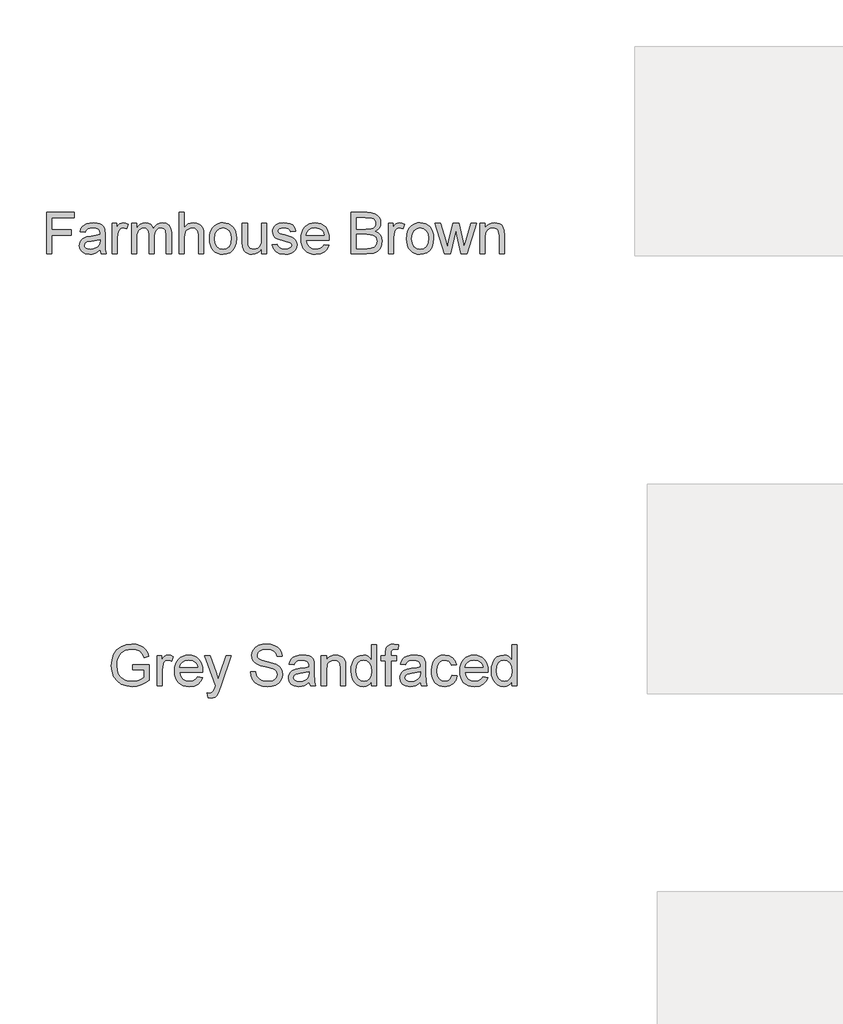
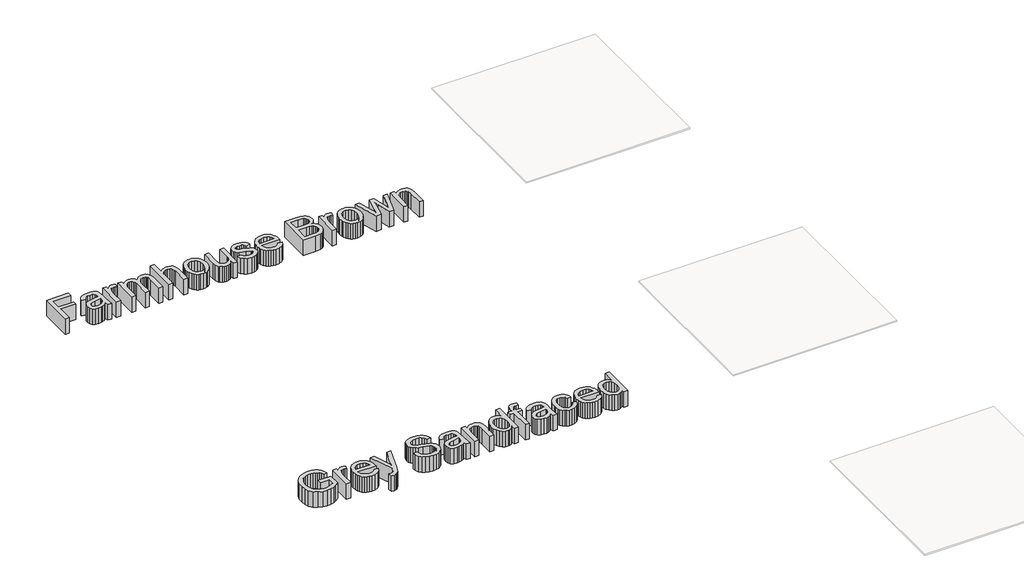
# One storey, part 2 of 6: 2 proxies.
"""IFC4 building model written with IfcOpenShell, lengths in millimetres."""

from ifc_helpers import new_model, si_unit, frame, origin, place, context, project, spatial, polyline, outline, extrude, element, save

model = new_model("IFC4")

# Units and contexts
model_context = context("Model", 3, world=origin())
ifc_project = project(units=[si_unit("LENGTHUNIT", "METRE", prefix="MILLI")], contexts=[model_context])

# Site, building, storey
site = spatial("IfcSite", under=ifc_project)
building = spatial("IfcBuilding", under=site)
storey = spatial("IfcBuildingStorey", under=building, Name="Marley Clay Plain Tile", Elevation=3000.0)

# Proxies
placement = place(None, origin())
element("IfcBuildingElementProxy", 1, Name="600mm Arial", ObjectType="600mm Arial", at=placement, inside=storey, context=model_context, shape_type="SweptSolid", body=[
    extrude(outline(polyline([(-14881.3791239, -8134.2124994), (-14881.3791239, -7838.827884), (-14682.9175855, -7838.827884), (-14682.9175855, -7875.7509609), (-14844.456047, -7875.7509609), (-14844.456047, -7963.4432686), (-14705.9945086, -7963.4432686), (-14705.9945086, -8000.3663456), (-14844.456047, -8000.3663456), (-14844.456047, -8134.2124994), (-14881.3791239, -8134.2124994)])), frame((0.0, 0.0, 3000.0), z_axis=(0.0, 0.0, 1.0), x_axis=(1.0, 0.0, 0.0)), (0.0, 0.0, 1.0), 150.0),
    extrude(outline(polyline([(-14498.3022009, -8106.5201917), (-14515.9434268, -8121.6463936), (-14534.1074893, -8131.5442302), (-14553.2090518, -8137.0069706), (-14573.6627778, -8138.827884), (-14604.519148, -8134.4468744), (-14627.2805663, -8121.3038456), (-14641.316023, -8101.3459129), (-14645.9945086, -8076.5201917), (-14644.2276816, -8061.2137013), (-14638.9272009, -8047.3134609), (-14630.7511191, -8035.4144225), (-14620.3574893, -8026.1115379), (-14594.5041239, -8013.9961532), (-14562.5570086, -8008.4432686), (-14524.8046047, -8002.6019225), (-14498.518547, -7995.7509609), (-14498.3022009, -7987.5298071), (-14500.8442682, -7971.0514417), (-14508.4704701, -7960.2701917), (-14525.5257586, -7952.265384), (-14549.2877778, -7949.5971148), (-14571.2829701, -7951.3729561), (-14586.643547, -7956.7004802), (-14597.1183066, -7966.5532446), (-14604.456047, -7981.9048071), (-14641.3791239, -7977.2894225), (-14634.9698691, -7957.0971148), (-14625.4055663, -7941.2317302), (-14611.7937874, -7929.0983167), (-14593.2421047, -7920.1019225), (-14570.5528018, -7914.531009), (-14544.5281624, -7912.6740379), (-14519.5672249, -7914.3146629), (-14499.7805663, -7919.2365379), (-14484.8616961, -7926.6373792), (-14474.5041239, -7935.7149032), (-14467.6351336, -7946.93786), (-14463.1820086, -7960.7749994), (-14461.3791239, -7993.0826917), (-14461.3791239, -8039.0201917), (-14459.5041239, -8103.1668263), (-14452.1483547, -8134.2124994), (-14489.0714316, -8134.2124994), (-14498.3022009, -8106.5201917)]), holes=[polyline([(-14498.3022009, -8032.6740379), (-14557.8695086, -8043.9961532), (-14589.6363355, -8049.9817302), (-14604.0233547, -8059.7173071), (-14609.0714316, -8073.9240379), (-14606.3220326, -8084.9036052), (-14598.0738355, -8093.8999994), (-14584.5071288, -8099.9036052), (-14565.8022009, -8101.9048071), (-14545.9704701, -8099.6962734), (-14528.4464316, -8093.0706725), (-14514.2397009, -8083.3080523), (-14504.3598932, -8071.6884609), (-14499.9788836, -8059.7173071), (-14498.518547, -8043.1307686), (-14498.3022009, -8032.6740379)])]), frame((0.0, 0.0, 3000.0), z_axis=(0.0, 0.0, 1.0), x_axis=(1.0, 0.0, 0.0)), (0.0, 0.0, 1.0), 150.0),
    extrude(outline(polyline([(-14410.6098932, -8134.2124994), (-14410.6098932, -7917.2894225), (-14378.3022009, -7917.2894225), (-14378.3022009, -7949.3807686), (-14366.3671047, -7930.7749994), (-14355.3695086, -7919.8134609), (-14344.3358547, -7914.4588936), (-14332.2925855, -7912.6740379), (-14313.9031624, -7915.5225956), (-14295.2252778, -7924.0682686), (-14307.5570086, -7957.1692302), (-14320.5377778, -7951.4901436), (-14333.518547, -7949.5971148), (-14344.5431864, -7951.4180282), (-14354.3959509, -7956.8807686), (-14362.3556864, -7965.5706725), (-14367.7012393, -7977.0730763), (-14372.190422, -7997.6980763), (-14373.6868163, -8020.1980763), (-14373.6868163, -8134.2124994), (-14410.6098932, -8134.2124994)])), frame((0.0, 0.0, 3000.0), z_axis=(0.0, 0.0, 1.0), x_axis=(1.0, 0.0, 0.0)), (0.0, 0.0, 1.0), 150.0),
    extrude(outline(polyline([(-14272.1483547, -8134.2124994), (-14272.1483547, -7917.2894225), (-14235.2252778, -7917.2894225), (-14235.2252778, -7952.9865379), (-14224.1195086, -7936.5893023), (-14209.8406624, -7923.7437494), (-14192.8755182, -7915.4414657), (-14173.7108547, -7912.6740379), (-14153.1759989, -7915.4955523), (-14136.7156624, -7923.9600956), (-14124.4199893, -7937.5087734), (-14116.3791239, -7955.5826917), (-14102.9205903, -7936.8101557), (-14087.5690278, -7923.4012013), (-14070.3244364, -7915.3558287), (-14051.1868163, -7912.6740379), (-14023.4314076, -7917.1361773), (-14002.9055663, -7930.5225956), (-13990.222273, -7953.1938696), (-13985.9945086, -7985.5105763), (-13985.9945086, -8134.2124994), (-14022.9175855, -8134.2124994), (-14022.9175855, -8001.3759609), (-14026.3430663, -7970.546634), (-14031.1567682, -7962.0460331), (-14038.7469124, -7955.3663456), (-14048.5095326, -7951.0394225), (-14059.8406624, -7949.5971148), (-14079.8436672, -7953.2930282), (-14096.1507586, -7964.3807686), (-14106.9951095, -7983.6175475), (-14110.6098932, -8011.7605763), (-14110.6098932, -8134.2124994), (-14147.5329701, -8134.2124994), (-14147.5329701, -7997.265384), (-14149.6693884, -7976.3879802), (-14156.0786432, -7961.4961532), (-14167.3556864, -7952.5718744), (-14184.0954701, -7949.5971148), (-14198.3202297, -7951.5802879), (-14211.4272009, -7957.5298071), (-14222.2445086, -7967.3014417), (-14229.6002778, -7980.7509609), (-14233.8190278, -7999.4108167), (-14235.2252778, -8024.8134609), (-14235.2252778, -8134.2124994), (-14272.1483547, -8134.2124994)])), frame((0.0, 0.0, 3000.0), z_axis=(0.0, 0.0, 1.0), x_axis=(1.0, 0.0, 0.0)), (0.0, 0.0, 1.0), 150.0),
    extrude(outline(polyline([(-13930.6098932, -8134.2124994), (-13930.6098932, -7838.827884), (-13893.6868163, -7838.827884), (-13893.6868163, -7947.4336532), (-13880.1246167, -7932.2263215), (-13864.8947489, -7921.3639417), (-13847.9972129, -7914.8465138), (-13829.4320086, -7912.6740379), (-13807.1303259, -7915.0448311), (-13787.9656624, -7922.1572109), (-13772.8755182, -7933.4522831), (-13762.7973932, -7948.3711532), (-13757.1183066, -7968.8699513), (-13755.2252778, -7996.9048071), (-13755.2252778, -8134.2124994), (-13792.1483547, -8134.2124994), (-13792.1483547, -8000.7269225), (-13795.0870566, -7977.6139417), (-13803.9031624, -7961.7846148), (-13818.1098932, -7952.6439898), (-13837.2204701, -7949.5971148), (-13852.8244364, -7951.6524032), (-13867.4728739, -7957.8182686), (-13879.6062874, -7967.499759), (-13887.6651816, -7980.1019225), (-13892.1814076, -7996.8507206), (-13893.6868163, -8018.9721148), (-13893.6868163, -8134.2124994), (-13930.6098932, -8134.2124994)])), frame((0.0, 0.0, 3000.0), z_axis=(0.0, 0.0, 1.0), x_axis=(1.0, 0.0, 0.0)), (0.0, 0.0, 1.0), 150.0),
    extrude(outline(polyline([(-13713.6868163, -8025.7509609), (-13711.6901215, -7997.6575114), (-13705.7000374, -7973.4492782), (-13695.7165638, -7953.1262614), (-13681.7397009, -7936.6884609), (-13667.6681864, -7926.1821508), (-13652.1363355, -7918.6776436), (-13635.144148, -7914.1749393), (-13616.6916239, -7912.6740379), (-13596.3212814, -7914.5017121), (-13577.9025614, -7919.984735), (-13561.4354641, -7929.1231064), (-13546.9199893, -7941.9168263), (-13535.0727838, -7957.9332025), (-13526.6104941, -7976.7395427), (-13521.5331203, -7998.3358468), (-13519.8406624, -8022.7221148), (-13522.8334509, -8060.0237975), (-13531.8118163, -8088.4192302), (-13546.5143403, -8109.6842542), (-13566.6796047, -8125.5947109), (-13590.6309268, -8135.5195907), (-13616.6916239, -8138.827884), (-13637.3594425, -8137.0069706), (-13655.9494364, -8131.5442302), (-13672.4616059, -8122.4396629), (-13686.8959509, -8109.6932686), (-13698.6169545, -8093.5213936), (-13706.9890999, -8074.140384), (-13712.0123872, -8051.5502398), (-13713.6868163, -8025.7509609)]), holes=[polyline([(-13676.7637393, -8025.6788456), (-13672.4909028, -8059.0953119), (-13659.6723932, -8082.9024032), (-13640.3815278, -8097.1542061), (-13616.6916239, -8101.9048071), (-13593.1098932, -8097.1271629), (-13573.8550855, -8082.7942302), (-13561.0365759, -8058.671634), (-13556.7637393, -8024.5249994), (-13561.0636191, -7992.0820907), (-13573.9632586, -7968.5995186), (-13593.2451095, -7954.3477157), (-13616.6916239, -7949.5971148), (-13640.3815278, -7954.3296869), (-13659.6723932, -7968.5274032), (-13672.4909028, -7992.2804081), (-13676.7637393, -8025.6788456)])]), frame((0.0, 0.0, 3000.0), z_axis=(0.0, 0.0, 1.0), x_axis=(1.0, 0.0, 0.0)), (0.0, 0.0, 1.0), 150.0),
    extrude(outline(polyline([(-13339.8406624, -8134.2124994), (-13339.8406624, -8096.9288456), (-13353.2000374, -8115.2596749), (-13368.7589316, -8128.3531244), (-13386.5173451, -8136.2091941), (-13406.4752778, -8138.827884), (-13424.4590518, -8136.9889417), (-13441.1988355, -8131.4721148), (-13455.2433066, -8123.1788456), (-13465.1411432, -8113.0105763), (-13476.1387393, -8085.8230763), (-13478.3022009, -8051.4961532), (-13478.3022009, -7917.2894225), (-13441.3791239, -7917.2894225), (-13441.3791239, -8034.1163456), (-13439.143547, -8071.7605763), (-13433.7619364, -8084.3176677), (-13424.5401816, -8093.8639417), (-13412.0912634, -8099.8945907), (-13397.0281624, -8101.9048071), (-13381.0996768, -8099.8495186), (-13366.1988355, -8093.6836532), (-13353.9121768, -8083.9751196), (-13345.8262393, -8071.2918263), (-13341.3370566, -8053.9210331), (-13339.8406624, -8030.1499994), (-13339.8406624, -7917.2894225), (-13302.9175855, -7917.2894225), (-13302.9175855, -8134.2124994), (-13339.8406624, -8134.2124994)])), frame((0.0, 0.0, 3000.0), z_axis=(0.0, 0.0, 1.0), x_axis=(1.0, 0.0, 0.0)), (0.0, 0.0, 1.0), 150.0),
    extrude(outline(polyline([(-13265.9945086, -8069.5971148), (-13229.0714316, -8064.9817302), (-13223.2481143, -8080.7749994), (-13211.9800855, -8092.3855763), (-13195.1952297, -8099.5249994), (-13172.8214316, -8101.9048071), (-13150.7180663, -8099.7233167), (-13135.1772009, -8093.1788456), (-13125.9824893, -8083.6956725), (-13122.9175855, -8072.6980763), (-13126.0005182, -8063.2870186), (-13135.2493163, -8056.1115379), (-13173.2541239, -8045.5826917), (-13228.8550855, -8027.5177879), (-13242.9265999, -8018.4402638), (-13253.1219124, -8006.4240379), (-13259.3148211, -7992.2353359), (-13261.3791239, -7976.640384), (-13259.7204701, -7962.3344946), (-13254.7445086, -7949.1283648), (-13246.9019605, -7937.5448311), (-13236.643547, -7928.1067302), (-13213.1699893, -7917.1812494), (-13181.4031624, -7912.6740379), (-13157.3707105, -7914.4859369), (-13136.4752778, -7919.921634), (-13119.6723932, -7928.4492782), (-13107.9175855, -7939.5370186), (-13100.1291239, -7954.0051677), (-13095.2252778, -7972.6740379), (-13132.1483547, -7977.2894225), (-13136.8088114, -7965.6698311), (-13146.0305663, -7956.9168263), (-13159.9037634, -7951.4270427), (-13178.518547, -7949.5971148), (-13199.7204701, -7951.3459129), (-13213.8550855, -7956.5923071), (-13221.8058066, -7964.1644225), (-13224.456047, -7972.890384), (-13220.0570086, -7983.6355763), (-13206.2829701, -7991.7846148), (-13174.4800855, -7999.6451917), (-13120.2853739, -8017.0249994), (-13105.9704701, -8025.3362975), (-13095.1171047, -8036.7124994), (-13088.2751576, -8051.1896629), (-13085.9945086, -8068.8038456), (-13088.6717922, -8087.0129802), (-13096.7036432, -8104.140384), (-13109.7835711, -8118.8429081), (-13127.6050855, -8129.7774032), (-13149.1315278, -8136.5652638), (-13173.3262393, -8138.827884), (-13210.5558066, -8134.4649032), (-13237.7252778, -8121.3759609), (-13255.862297, -8099.7052879), (-13265.9945086, -8069.5971148)])), frame((0.0, 0.0, 3000.0), z_axis=(0.0, 0.0, 1.0), x_axis=(1.0, 0.0, 0.0)), (0.0, 0.0, 1.0), 150.0),
    extrude(outline(polyline([(-12892.581047, -8069.5971148), (-12856.3791239, -8074.2124994), (-12869.4229941, -8101.4901436), (-12890.237297, -8121.8807686), (-12918.3532826, -8134.5911052), (-12953.3022009, -8138.827884), (-12976.2123571, -8137.0002097), (-12996.6255182, -8131.5171869), (-13014.541684, -8122.3788155), (-13029.9608547, -8109.5850956), (-13042.3601937, -8093.4920968), (-13051.2168643, -8074.4558888), (-13056.5308667, -8052.4764718), (-13058.3022009, -8027.5538456), (-13056.5128379, -8001.7861172), (-13051.1447489, -7979.0742782), (-13042.197934, -7959.4183287), (-13029.6723932, -7942.8182686), (-13014.2937874, -7929.6301677), (-12996.7877778, -7920.2100956), (-12977.1543643, -7914.5580523), (-12955.393547, -7912.6740379), (-12934.3336011, -7914.5535451), (-12915.2883788, -7920.1920667), (-12898.25788, -7929.5896028), (-12883.2421047, -7942.7461532), (-12870.9847429, -7959.3101557), (-12862.2294845, -7978.9300475), (-12856.9763295, -8001.6058287), (-12855.2252778, -8027.3374994), (-12855.4416239, -8037.2894225), (-13021.3791239, -8037.2894225), (-13014.987898, -8064.9276436), (-13000.1411432, -8085.2461532), (-12978.7138595, -8097.7401436), (-12952.581047, -8101.9048071), (-12932.9296047, -8099.9757206), (-12916.3791239, -8094.1884609), (-12902.9296047, -8084.1824513), (-12892.581047, -8069.5971148)]), holes=[polyline([(-13021.3791239, -8000.3663456), (-12892.1483547, -8000.3663456), (-12897.1423451, -7980.859134), (-12906.9320086, -7966.9048071), (-12928.4584509, -7953.9240379), (-12955.5377778, -7949.5971148), (-12980.4265999, -7953.0496388), (-13001.0065278, -7963.4072109), (-13015.3124172, -7979.5520427), (-13021.3791239, -8000.3663456)])]), frame((0.0, 0.0, 3000.0), z_axis=(0.0, 0.0, 1.0), x_axis=(1.0, 0.0, 0.0)), (0.0, 0.0, 1.0), 150.0),
    extrude(outline(polyline([(-12698.3022009, -8134.2124994), (-12698.3022009, -7838.827884), (-12585.5858547, -7838.827884), (-12554.5852538, -7841.00036), (-12530.3815278, -7847.5177879), (-12511.8298451, -7858.5424273), (-12497.7853739, -7874.2365379), (-12488.9422249, -7892.6980763), (-12485.9945086, -7912.0249994), (-12488.4734749, -7929.8104561), (-12495.9103739, -7946.5322109), (-12508.3592922, -7961.1626196), (-12525.8743163, -7972.6740379), (-12504.9518403, -7983.5995186), (-12489.4921047, -8000.2221148), (-12479.9458307, -8021.4420667), (-12476.7637393, -8046.1596148), (-12478.9362153, -8066.7575715), (-12485.4536432, -8085.859134), (-12495.1802057, -8102.1031244), (-12506.9800855, -8114.1283648), (-12521.4302057, -8122.8362975), (-12539.1074893, -8129.1283648), (-12586.4512393, -8134.2124994), (-12698.3022009, -8134.2124994)]), holes=[polyline([(-12661.3791239, -7958.827884), (-12593.9512393, -7958.827884), (-12554.5762393, -7955.6548071), (-12540.7931864, -7950.1830523), (-12530.8863355, -7941.9889417), (-12524.909773, -7931.1986773), (-12522.9175855, -7917.9384609), (-12524.7745566, -7905.0658648), (-12530.3454701, -7893.8519225), (-12539.377922, -7885.0989177), (-12551.6195086, -7879.609134), (-12599.0714316, -7875.7509609), (-12661.3791239, -7875.7509609), (-12661.3791239, -7958.827884)]), polyline([(-12661.3791239, -8097.2894225), (-12585.6579701, -8097.2894225), (-12558.2541239, -8095.8471148), (-12535.0690278, -8087.8062494), (-12519.7084509, -8071.3999994), (-12515.1922249, -8059.8074513), (-12513.6868163, -8046.5201917), (-12515.4536432, -8031.0874994), (-12520.7541239, -8017.8182686), (-12530.0119364, -8007.4426677), (-12543.6507586, -8000.6908648), (-12562.9686672, -7996.9859369), (-12589.2637393, -7995.7509609), (-12661.3791239, -7995.7509609), (-12661.3791239, -8097.2894225)])]), frame((0.0, 0.0, 3000.0), z_axis=(0.0, 0.0, 1.0), x_axis=(1.0, 0.0, 0.0)), (0.0, 0.0, 1.0), 150.0),
    extrude(outline(polyline([(-12430.6098932, -8134.2124994), (-12430.6098932, -7917.2894225), (-12398.3022009, -7917.2894225), (-12398.3022009, -7949.3807686), (-12386.3671047, -7930.7749994), (-12375.3695086, -7919.8134609), (-12364.3358547, -7914.4588936), (-12352.2925855, -7912.6740379), (-12333.9031624, -7915.5225956), (-12315.2252778, -7924.0682686), (-12327.5570086, -7957.1692302), (-12340.5377778, -7951.4901436), (-12353.518547, -7949.5971148), (-12364.5431864, -7951.4180282), (-12374.3959509, -7956.8807686), (-12382.3556864, -7965.5706725), (-12387.7012393, -7977.0730763), (-12392.190422, -7997.6980763), (-12393.6868163, -8020.1980763), (-12393.6868163, -8134.2124994), (-12430.6098932, -8134.2124994)])), frame((0.0, 0.0, 3000.0), z_axis=(0.0, 0.0, 1.0), x_axis=(1.0, 0.0, 0.0)), (0.0, 0.0, 1.0), 150.0),
    extrude(outline(polyline([(-12301.3791239, -8025.7509609), (-12299.3824292, -7997.6575114), (-12293.3923451, -7973.4492782), (-12283.4088715, -7953.1262614), (-12269.4320086, -7936.6884609), (-12255.3604941, -7926.1821508), (-12239.8286432, -7918.6776436), (-12222.8364557, -7914.1749393), (-12204.3839316, -7912.6740379), (-12184.0135891, -7914.5017121), (-12165.5948691, -7919.984735), (-12149.1277718, -7929.1231064), (-12134.612297, -7941.9168263), (-12122.7650915, -7957.9332025), (-12114.3028018, -7976.7395427), (-12109.225428, -7998.3358468), (-12107.5329701, -8022.7221148), (-12110.5257586, -8060.0237975), (-12119.5041239, -8088.4192302), (-12134.206648, -8109.6842542), (-12154.3719124, -8125.5947109), (-12178.3232345, -8135.5195907), (-12204.3839316, -8138.827884), (-12225.0517501, -8137.0069706), (-12243.6417441, -8131.5442302), (-12260.1539136, -8122.4396629), (-12274.5882586, -8109.6932686), (-12286.3092622, -8093.5213936), (-12294.6814076, -8074.140384), (-12299.7046949, -8051.5502398), (-12301.3791239, -8025.7509609)]), holes=[polyline([(-12264.456047, -8025.6788456), (-12260.1832105, -8059.0953119), (-12247.3647009, -8082.9024032), (-12228.0738355, -8097.1542061), (-12204.3839316, -8101.9048071), (-12180.8022009, -8097.1271629), (-12161.5473932, -8082.7942302), (-12148.7288836, -8058.671634), (-12144.456047, -8024.5249994), (-12148.7559268, -7992.0820907), (-12161.6555663, -7968.5995186), (-12180.9374172, -7954.3477157), (-12204.3839316, -7949.5971148), (-12228.0738355, -7954.3296869), (-12247.3647009, -7968.5274032), (-12260.1832105, -7992.2804081), (-12264.456047, -8025.6788456)])]), frame((0.0, 0.0, 3000.0), z_axis=(0.0, 0.0, 1.0), x_axis=(1.0, 0.0, 0.0)), (0.0, 0.0, 1.0), 150.0),
    extrude(outline(polyline([(-12030.0089316, -8134.2124994), (-12095.9945086, -7917.2894225), (-12057.6291239, -7917.2894225), (-12020.2012393, -8043.8519225), (-12009.0233547, -8089.0682686), (-11999.8647009, -8045.5105763), (-11970.081047, -7917.2894225), (-11926.0906624, -7917.2894225), (-11896.4512393, -8045.1499994), (-11888.3022009, -8084.5971148), (-11876.6195086, -8042.9865379), (-11839.1195086, -7917.2894225), (-11800.6098932, -7917.2894225), (-11867.1002778, -8134.2124994), (-11911.7397009, -8134.2124994), (-11940.081047, -8007.0009609), (-11948.3022009, -7967.3374994), (-11984.8647009, -8134.2124994), (-12030.0089316, -8134.2124994)])), frame((0.0, 0.0, 3000.0), z_axis=(0.0, 0.0, 1.0), x_axis=(1.0, 0.0, 0.0)), (0.0, 0.0, 1.0), 150.0),
    extrude(outline(polyline([(-11775.2252778, -8134.2124994), (-11775.2252778, -7917.2894225), (-11738.3022009, -7917.2894225), (-11738.3022009, -7947.577884), (-11725.4746768, -7932.3074513), (-11710.0690278, -7921.3999994), (-11692.0852538, -7914.8555282), (-11671.5233547, -7912.6740379), (-11653.3232345, -7914.4318504), (-11636.6555663, -7919.7052879), (-11622.7553259, -7927.8362975), (-11612.8574893, -7938.1668263), (-11601.7877778, -7965.3182686), (-11599.8406624, -8001.015384), (-11599.8406624, -8134.2124994), (-11636.7637393, -8134.2124994), (-11636.7637393, -8005.9913456), (-11641.018547, -7973.3230763), (-11646.9049653, -7963.5965138), (-11656.0546047, -7956.0514417), (-11667.7823691, -7951.2106965), (-11681.4031624, -7949.5971148), (-11703.0287634, -7953.2209129), (-11721.4632586, -7964.0923071), (-11728.8302958, -7972.9670066), (-11734.0924653, -7985.0959129), (-11738.3022009, -8019.1163456), (-11738.3022009, -8134.2124994), (-11775.2252778, -8134.2124994)])), frame((0.0, 0.0, 3000.0), z_axis=(0.0, 0.0, 1.0), x_axis=(1.0, 0.0, 0.0)), (0.0, 0.0, 1.0), 150.0),
])
element("IfcBuildingElementProxy", 2, Name="600mm Arial", ObjectType="600mm Arial", at=placement, inside=storey, context=model_context, shape_type="SweptSolid", body=[
    extrude(outline(polyline([(-14264.6152289, -11114.7139785), (-14264.6152289, -11077.7909016), (-14144.6152289, -11077.7909016), (-14144.6152289, -11188.1995554), (-14173.7768876, -11208.4820073), (-14203.8580174, -11223.0312862), (-14234.786503, -11231.7933054), (-14266.4902289, -11234.7139785), (-14307.911503, -11230.0715506), (-14345.348402, -11216.1442669), (-14376.4481616, -11193.4189064), (-14398.8580174, -11162.3822477), (-14412.4066953, -11125.1526804), (-14416.9229213, -11083.8485939), (-14412.4247241, -11042.2470314), (-14398.9301328, -11003.5481131), (-14376.9980414, -10971.0871756), (-14347.1873443, -10948.1995554), (-14310.8772482, -10934.6238343), (-14269.4469597, -10930.0985939), (-14239.0322963, -10932.721791), (-14211.6825366, -10940.5913823), (-14188.6506857, -10953.1394593), (-14171.1897482, -10969.7981131), (-14158.2720799, -10991.3696275), (-14148.8700366, -11018.6562862), (-14182.9084982, -11028.2476323), (-14190.5076568, -11008.7854929), (-14199.7474405, -10994.1009977), (-14211.9709982, -10983.0312862), (-14228.5214789, -10974.4134977), (-14248.2540511, -10968.8696275), (-14270.0238828, -10967.0216708), (-14295.5076568, -10969.0138583), (-14317.2955174, -10974.9904208), (-14335.3063347, -10984.2031612), (-14349.4589789, -10995.9038823), (-14368.4613828, -11024.3534016), (-14377.1152289, -11052.2259977), (-14379.9998443, -11082.3341708), (-14376.5292914, -11117.643666), (-14366.1176328, -11146.6971516), (-14349.0803732, -11169.2872958), (-14325.7330174, -11185.2067669), (-14298.4103011, -11194.6448679), (-14269.4469597, -11197.7909016), (-14243.8730414, -11195.4201083), (-14218.9301328, -11188.3077285), (-14197.2684741, -11178.5090506), (-14181.5383059, -11168.0793631), (-14181.5383059, -11114.7139785), (-14264.6152289, -11114.7139785)])), frame((0.0, 0.0, 3000.0), z_axis=(0.0, 0.0, 1.0), x_axis=(1.0, 0.0, 0.0)), (0.0, 0.0, 1.0), 150.0),
    extrude(outline(polyline([(-14089.2306136, -11230.0985939), (-14089.2306136, -11013.1755169), (-14056.9229213, -11013.1755169), (-14056.9229213, -11045.2668631), (-14044.9878251, -11026.6610939), (-14033.9902289, -11015.6995554), (-14022.9565751, -11010.3449881), (-14010.9133059, -11008.5601323), (-13992.5238828, -11011.40869), (-13973.8459982, -11019.9543631), (-13986.1777289, -11053.0553246), (-13999.1584982, -11047.3762381), (-14012.1392674, -11045.4832093), (-14023.1639068, -11047.3041227), (-14033.0166713, -11052.7668631), (-14040.9764068, -11061.4567669), (-14046.3219597, -11072.9591708), (-14050.8111424, -11093.5841708), (-14052.3075366, -11116.0841708), (-14052.3075366, -11230.0985939), (-14089.2306136, -11230.0985939)])), frame((0.0, 0.0, 3000.0), z_axis=(0.0, 0.0, 1.0), x_axis=(1.0, 0.0, 0.0)), (0.0, 0.0, 1.0), 150.0),
    extrude(outline(polyline([(-13798.8940751, -11165.4832093), (-13762.692152, -11170.0985939), (-13775.7360222, -11197.3762381), (-13796.5503251, -11217.7668631), (-13824.6663107, -11230.4771996), (-13859.6152289, -11234.7139785), (-13882.5253852, -11232.8863042), (-13902.9385463, -11227.4032814), (-13920.8547121, -11218.26491), (-13936.2738828, -11205.47119), (-13948.6732217, -11189.3781912), (-13957.5298924, -11170.3419833), (-13962.8438948, -11148.3625662), (-13964.6152289, -11123.43994), (-13962.825866, -11097.6722117), (-13957.457777, -11074.9603727), (-13948.5109621, -11055.3044232), (-13935.9854213, -11038.7043631), (-13920.6068155, -11025.5162621), (-13903.1008059, -11016.09619), (-13883.4673924, -11010.4441468), (-13861.7065751, -11008.5601323), (-13840.6466292, -11010.4396395), (-13821.6014068, -11016.0781612), (-13804.570908, -11025.4756972), (-13789.5551328, -11038.6322477), (-13777.297771, -11055.1962501), (-13768.5425126, -11074.8161419), (-13763.2893576, -11097.4919232), (-13761.5383059, -11123.2235939), (-13761.754652, -11133.1755169), (-13927.692152, -11133.1755169), (-13921.3009261, -11160.8137381), (-13906.4541713, -11181.1322477), (-13885.0268876, -11193.6262381), (-13858.8940751, -11197.7909016), (-13839.2426328, -11195.861815), (-13822.692152, -11190.0745554), (-13809.2426328, -11180.0685458), (-13798.8940751, -11165.4832093)]), holes=[polyline([(-13927.692152, -11096.25244), (-13798.4613828, -11096.25244), (-13803.4553732, -11076.7452285), (-13813.2450366, -11062.7909016), (-13834.7714789, -11049.8101323), (-13861.8508059, -11045.4832093), (-13886.739628, -11048.9357333), (-13907.3195559, -11059.2933054), (-13921.6254453, -11075.4381371), (-13927.692152, -11096.25244)])]), frame((0.0, 0.0, 3000.0), z_axis=(0.0, 0.0, 1.0), x_axis=(1.0, 0.0, 0.0)), (0.0, 0.0, 1.0), 150.0),
    extrude(outline(polyline([(-13724.6152289, -11313.1755169), (-13729.2306136, -11277.6226323), (-13710.4806136, -11280.8678246), (-13692.9565751, -11276.7933054), (-13682.2113828, -11265.4351323), (-13672.1152289, -11238.2476323), (-13669.2306136, -11229.3053246), (-13747.692152, -11013.1755169), (-13708.7498443, -11013.1755169), (-13667.1392674, -11133.6082093), (-13652.6440751, -11181.7812862), (-13638.1488828, -11139.2332093), (-13595.3844597, -11013.1755169), (-13556.7306136, -11013.1755169), (-13632.2354213, -11235.2909016), (-13651.8508059, -11283.4639785), (-13661.8928732, -11298.8425843), (-13673.2690751, -11309.4976323), (-13686.4842193, -11315.7175843), (-13702.0431136, -11317.7909016), (-13724.6152289, -11313.1755169)])), frame((0.0, 0.0, 3000.0), z_axis=(0.0, 0.0, 1.0), x_axis=(1.0, 0.0, 0.0)), (0.0, 0.0, 1.0), 150.0),
    extrude(outline(polyline([(-13419.9998443, -11128.5601323), (-13383.0767674, -11128.5601323), (-13378.8399886, -11149.049916), (-13371.1777289, -11165.5192669), (-13359.2246039, -11178.5901804), (-13342.1152289, -11188.8846516), (-13321.2017674, -11195.5643391), (-13297.8363828, -11197.7909016), (-13277.2654693, -11196.1052044), (-13259.254652, -11191.0481131), (-13244.6603011, -11183.0433054), (-13234.3387866, -11172.5144593), (-13228.1999645, -11160.4261179), (-13226.1536905, -11147.7428246), (-13227.6861424, -11135.3840506), (-13232.2834982, -11124.7019593), (-13241.6224405, -11115.5883775), (-13257.379652, -11107.9351323), (-13311.1416713, -11093.8365746), (-13346.4331376, -11084.5066468), (-13369.0142674, -11075.62744), (-13387.3946761, -11063.205565), (-13400.4205174, -11048.1514785), (-13408.1819357, -11030.7896996), (-13410.7690751, -11011.4447477), (-13407.5689549, -10989.8191468), (-13397.9685943, -10969.6538823), (-13382.2203972, -10952.5625362), (-13360.5767674, -10940.15869), (-13334.5972001, -10932.6136179), (-13305.8411905, -10930.0985939), (-13274.6873443, -10932.7308054), (-13247.4277289, -10940.62744), (-13225.035902, -10953.6262381), (-13208.4854213, -10971.56494), (-13198.0106616, -10993.3257573), (-13193.8459982, -11017.7909016), (-13230.7690751, -11017.7909016), (-13237.5479213, -10995.7596516), (-13251.6825366, -10979.8582093), (-13273.7678732, -10970.2308054), (-13304.3988828, -10967.0216708), (-13335.7510463, -10970.1947477), (-13357.2594597, -10979.7139785), (-13369.6993636, -10993.7223919), (-13373.8459982, -11010.3630169), (-13370.9072963, -11024.5517189), (-13362.0911905, -11035.9639785), (-13341.2498443, -11046.1683054), (-13301.8027289, -11056.5889785), (-13236.4661905, -11075.1226323), (-13215.4175126, -11088.518065), (-13200.7330174, -11105.0505169), (-13192.1062145, -11124.5396996), (-13189.2306136, -11146.8053246), (-13192.5389068, -11169.5667429), (-13202.4637866, -11190.9759977), (-13218.5996039, -11209.4014785), (-13240.5407097, -11223.2115746), (-13266.9259261, -11231.8383775), (-13296.3940751, -11234.7139785), (-13332.5689549, -11231.6130169), (-13362.3435943, -11222.3101323), (-13386.0605414, -11206.7692669), (-13404.0623443, -11184.9543631), (-13415.6188347, -11158.3798439), (-13419.9998443, -11128.5601323)])), frame((0.0, 0.0, 3000.0), z_axis=(0.0, 0.0, 1.0), x_axis=(1.0, 0.0, 0.0)), (0.0, 0.0, 1.0), 150.0),
    extrude(outline(polyline([(-12999.9998443, -11202.4062862), (-13017.6410703, -11217.5324881), (-13035.8051328, -11227.4303246), (-13054.9066953, -11232.893065), (-13075.3604213, -11234.7139785), (-13106.2167914, -11230.3329689), (-13128.9782097, -11217.18994), (-13143.0136664, -11197.2320073), (-13147.692152, -11172.4062862), (-13145.9253251, -11157.0997958), (-13140.6248443, -11143.1995554), (-13132.4487626, -11131.3005169), (-13122.0551328, -11121.9976323), (-13096.2017674, -11109.8822477), (-13064.254652, -11104.3293631), (-13026.5022482, -11098.4880169), (-13000.2161905, -11091.6370554), (-12999.9998443, -11083.4159016), (-13002.5419116, -11066.9375362), (-13010.1681136, -11056.1562862), (-13027.223402, -11048.1514785), (-13050.9854213, -11045.4832093), (-13072.9806136, -11047.2590506), (-13088.3411905, -11052.5865746), (-13098.8159501, -11062.4393391), (-13106.1536905, -11077.7909016), (-13143.0767674, -11073.1755169), (-13136.6675126, -11052.9832093), (-13127.1032097, -11037.1178246), (-13113.4914309, -11024.9844112), (-13094.9397482, -11015.9880169), (-13072.2504453, -11010.4171035), (-13046.2258059, -11008.5601323), (-13021.2648684, -11010.2007573), (-13001.4782097, -11015.1226323), (-12986.5593395, -11022.5234737), (-12976.2017674, -11031.6009977), (-12969.332777, -11042.8239544), (-12964.879652, -11056.6610939), (-12963.0767674, -11088.9687862), (-12963.0767674, -11134.9062862), (-12961.2017674, -11199.0529208), (-12953.8459982, -11230.0985939), (-12990.7690751, -11230.0985939), (-12999.9998443, -11202.4062862)]), holes=[polyline([(-12999.9998443, -11128.5601323), (-13059.567152, -11139.8822477), (-13091.3339789, -11145.8678246), (-13105.7209982, -11155.6034016), (-13110.7690751, -11169.8101323), (-13108.0196761, -11180.7896996), (-13099.7714789, -11189.7860939), (-13086.2047722, -11195.7896996), (-13067.4998443, -11197.7909016), (-13047.6681136, -11195.5823679), (-13030.1440751, -11188.9567669), (-13015.9373443, -11179.1941468), (-13006.0575366, -11167.5745554), (-13001.676527, -11155.6034016), (-13000.2161905, -11139.0168631), (-12999.9998443, -11128.5601323)])]), frame((0.0, 0.0, 3000.0), z_axis=(0.0, 0.0, 1.0), x_axis=(1.0, 0.0, 0.0)), (0.0, 0.0, 1.0), 150.0),
    extrude(outline(polyline([(-12912.3075366, -11230.0985939), (-12912.3075366, -11013.1755169), (-12875.3844597, -11013.1755169), (-12875.3844597, -11043.4639785), (-12862.5569357, -11028.1935458), (-12847.1512866, -11017.2860939), (-12829.1675126, -11010.7416227), (-12808.6056136, -11008.5601323), (-12790.4054934, -11010.3179448), (-12773.7378251, -11015.5913823), (-12759.8375847, -11023.7223919), (-12749.9397482, -11034.0529208), (-12738.8700366, -11061.2043631), (-12736.9229213, -11096.9014785), (-12736.9229213, -11230.0985939), (-12773.8459982, -11230.0985939), (-12773.8459982, -11101.87744), (-12778.1008059, -11069.2091708), (-12783.9872241, -11059.4826083), (-12793.1368636, -11051.9375362), (-12804.864628, -11047.096791), (-12818.4854213, -11045.4832093), (-12840.1110222, -11049.1070073), (-12858.5455174, -11059.9784016), (-12865.9125547, -11068.8531011), (-12871.1747241, -11080.9820073), (-12875.3844597, -11115.00244), (-12875.3844597, -11230.0985939), (-12912.3075366, -11230.0985939)])), frame((0.0, 0.0, 3000.0), z_axis=(0.0, 0.0, 1.0), x_axis=(1.0, 0.0, 0.0)), (0.0, 0.0, 1.0), 150.0),
    extrude(outline(polyline([(-12552.3075366, -11230.0985939), (-12552.3075366, -11195.2668631), (-12563.3547121, -11212.5249761), (-12576.7366232, -11224.8521996), (-12592.4532698, -11232.2485338), (-12610.504652, -11234.7139785), (-12634.3748443, -11231.1442669), (-12656.2258059, -11220.4351323), (-12674.723402, -11203.3347718), (-12688.5334982, -11180.5913823), (-12697.1332578, -11153.1244352), (-12699.9998443, -11121.8534016), (-12697.3586184, -11090.9699881), (-12689.4349405, -11063.0793631), (-12676.2378251, -11039.768065), (-12657.7762866, -11022.6226323), (-12635.4475607, -11012.0757573), (-12610.6488828, -11008.5601323), (-12592.5839789, -11011.0751564), (-12576.6104213, -11018.6202285), (-12563.0707578, -11030.1857333), (-12552.3075366, -11044.7620554), (-12552.3075366, -10934.7139785), (-12515.3844597, -10934.7139785), (-12515.3844597, -11230.0985939), (-12552.3075366, -11230.0985939)]), holes=[polyline([(-12663.0767674, -11121.7091708), (-12658.9121039, -11155.1076083), (-12646.4181136, -11178.8606131), (-12628.2630655, -11193.0583294), (-12607.1152289, -11197.7909016), (-12585.9764068, -11193.2746756), (-12568.2810943, -11179.7259977), (-12556.3009261, -11156.8924641), (-12552.3075366, -11124.5216708), (-12556.3730414, -11089.1310458), (-12568.5695559, -11064.5937862), (-12586.7155895, -11050.2608535), (-12608.629652, -11045.4832093), (-12629.9938347, -11050.0715506), (-12647.4998443, -11063.8365746), (-12659.1825366, -11087.4814064), (-12663.0767674, -11121.7091708)])]), frame((0.0, 0.0, 3000.0), z_axis=(0.0, 0.0, 1.0), x_axis=(1.0, 0.0, 0.0)), (0.0, 0.0, 1.0), 150.0),
    extrude(outline(polyline([(-12450.7690751, -11230.0985939), (-12450.7690751, -11050.0985939), (-12483.0767674, -11050.0985939), (-12483.0767674, -11013.1755169), (-12450.7690751, -11013.1755169), (-12450.7690751, -10991.3245554), (-12446.8748443, -10960.5312862), (-12439.4469597, -10948.2536419), (-12427.9806136, -10938.5360939), (-12411.9349405, -10932.2079689), (-12390.7690751, -10930.0985939), (-12357.0911905, -10934.1370554), (-12362.4998443, -10968.75244), (-12383.7738828, -10967.0216708), (-12397.8093395, -10968.5541227), (-12407.0310943, -10973.1514785), (-12412.1422722, -10981.9315266), (-12413.8459982, -10996.0120554), (-12413.8459982, -11013.1755169), (-12372.3075366, -11013.1755169), (-12372.3075366, -11050.0985939), (-12413.8459982, -11050.0985939), (-12413.8459982, -11230.0985939), (-12450.7690751, -11230.0985939)])), frame((0.0, 0.0, 3000.0), z_axis=(0.0, 0.0, 1.0), x_axis=(1.0, 0.0, 0.0)), (0.0, 0.0, 1.0), 150.0),
    extrude(outline(polyline([(-12201.5383059, -11202.4062862), (-12219.1795318, -11217.5324881), (-12237.3435943, -11227.4303246), (-12256.4451568, -11232.893065), (-12276.8988828, -11234.7139785), (-12307.755253, -11230.3329689), (-12330.5166713, -11217.18994), (-12344.552128, -11197.2320073), (-12349.2306136, -11172.4062862), (-12347.4637866, -11157.0997958), (-12342.1633059, -11143.1995554), (-12333.9872241, -11131.3005169), (-12323.5935943, -11121.9976323), (-12297.7402289, -11109.8822477), (-12265.7931136, -11104.3293631), (-12228.0407097, -11098.4880169), (-12201.754652, -11091.6370554), (-12201.5383059, -11083.4159016), (-12204.0803732, -11066.9375362), (-12211.7065751, -11056.1562862), (-12228.7618636, -11048.1514785), (-12252.5238828, -11045.4832093), (-12274.5190751, -11047.2590506), (-12289.879652, -11052.5865746), (-12300.3544116, -11062.4393391), (-12307.692152, -11077.7909016), (-12344.6152289, -11073.1755169), (-12338.2059741, -11052.9832093), (-12328.6416713, -11037.1178246), (-12315.0298924, -11024.9844112), (-12296.4782097, -11015.9880169), (-12273.7889068, -11010.4171035), (-12247.7642674, -11008.5601323), (-12222.8033299, -11010.2007573), (-12203.0166713, -11015.1226323), (-12188.0978011, -11022.5234737), (-12177.7402289, -11031.6009977), (-12170.8712386, -11042.8239544), (-12166.4181136, -11056.6610939), (-12164.6152289, -11088.9687862), (-12164.6152289, -11134.9062862), (-12162.7402289, -11199.0529208), (-12155.3844597, -11230.0985939), (-12192.3075366, -11230.0985939), (-12201.5383059, -11202.4062862)]), holes=[polyline([(-12201.5383059, -11128.5601323), (-12261.1056136, -11139.8822477), (-12292.8724405, -11145.8678246), (-12307.2594597, -11155.6034016), (-12312.3075366, -11169.8101323), (-12309.5581376, -11180.7896996), (-12301.3099405, -11189.7860939), (-12287.7432338, -11195.7896996), (-12269.0383059, -11197.7909016), (-12249.2065751, -11195.5823679), (-12231.6825366, -11188.9567669), (-12217.4758059, -11179.1941468), (-12207.5959982, -11167.5745554), (-12203.2149886, -11155.6034016), (-12201.754652, -11139.0168631), (-12201.5383059, -11128.5601323)])]), frame((0.0, 0.0, 3000.0), z_axis=(0.0, 0.0, 1.0), x_axis=(1.0, 0.0, 0.0)), (0.0, 0.0, 1.0), 150.0),
    extrude(outline(polyline([(-11975.3844597, -11151.6370554), (-11938.4613828, -11156.25244), (-11948.7558539, -11189.0919833), (-11968.1008059, -11213.90869), (-11994.6753251, -11229.5126564), (-12026.6584982, -11234.7139785), (-12047.3668816, -11232.8998258), (-12065.9343395, -11227.4573679), (-12082.360872, -11218.3866047), (-12096.6464789, -11205.6875362), (-12108.2097301, -11189.5990446), (-12116.4691953, -11170.3600121), (-12121.4248744, -11147.9704388), (-12123.0767674, -11122.4303246), (-12120.255253, -11089.5727525), (-12111.7907097, -11061.09619), (-12097.5479213, -11038.1003968), (-12077.3916713, -11021.6851323), (-12053.2780895, -11011.8413823), (-12027.1633059, -11008.5601323), (-11995.9643876, -11013.0673439), (-11971.0214789, -11026.5889785), (-11953.1278491, -11048.4038823), (-11943.0767674, -11077.7909016), (-11979.9998443, -11082.4062862), (-11986.6975607, -11066.2975121), (-11997.1272482, -11054.7500362), (-12010.7119838, -11047.799916), (-12026.8748443, -11045.4832093), (-12050.7360222, -11050.0445073), (-12069.6753251, -11063.7284016), (-12082.0340991, -11087.2740746), (-12086.1536905, -11121.4207093), (-12082.1242434, -11156.0270794), (-12070.035902, -11179.6538823), (-12051.4391472, -11193.2566468), (-12027.8844597, -11197.7909016), (-12008.7648684, -11194.9603727), (-11993.0887866, -11186.4687862), (-11981.6855414, -11172.0997958), (-11975.3844597, -11151.6370554)])), frame((0.0, 0.0, 3000.0), z_axis=(0.0, 0.0, 1.0), x_axis=(1.0, 0.0, 0.0)), (0.0, 0.0, 1.0), 150.0),
    extrude(outline(polyline([(-11754.2786905, -11165.4832093), (-11718.0767674, -11170.0985939), (-11731.1206376, -11197.3762381), (-11751.9349405, -11217.7668631), (-11780.0509261, -11230.4771996), (-11814.9998443, -11234.7139785), (-11837.9100006, -11232.8863042), (-11858.3231616, -11227.4032814), (-11876.2393275, -11218.26491), (-11891.6584982, -11205.47119), (-11904.0578371, -11189.3781912), (-11912.9145078, -11170.3419833), (-11918.2285102, -11148.3625662), (-11919.9998443, -11123.43994), (-11918.2104814, -11097.6722117), (-11912.8423924, -11074.9603727), (-11903.8955775, -11055.3044232), (-11891.3700366, -11038.7043631), (-11875.9914309, -11025.5162621), (-11858.4854213, -11016.09619), (-11838.8520078, -11010.4441468), (-11817.0911905, -11008.5601323), (-11796.0312446, -11010.4396395), (-11776.9860222, -11016.0781612), (-11759.9555234, -11025.4756972), (-11744.9397482, -11038.6322477), (-11732.6823864, -11055.1962501), (-11723.927128, -11074.8161419), (-11718.6739729, -11097.4919232), (-11716.9229213, -11123.2235939), (-11717.1392674, -11133.1755169), (-11883.0767674, -11133.1755169), (-11876.6855414, -11160.8137381), (-11861.8387866, -11181.1322477), (-11840.411503, -11193.6262381), (-11814.2786905, -11197.7909016), (-11794.6272482, -11195.861815), (-11778.0767674, -11190.0745554), (-11764.6272482, -11180.0685458), (-11754.2786905, -11165.4832093)]), holes=[polyline([(-11883.0767674, -11096.25244), (-11753.8459982, -11096.25244), (-11758.8399886, -11076.7452285), (-11768.629652, -11062.7909016), (-11790.1560943, -11049.8101323), (-11817.2354213, -11045.4832093), (-11842.1242434, -11048.9357333), (-11862.7041713, -11059.2933054), (-11877.0100607, -11075.4381371), (-11883.0767674, -11096.25244)])]), frame((0.0, 0.0, 3000.0), z_axis=(0.0, 0.0, 1.0), x_axis=(1.0, 0.0, 0.0)), (0.0, 0.0, 1.0), 150.0),
    extrude(outline(polyline([(-11546.1536905, -11230.0985939), (-11546.1536905, -11195.2668631), (-11557.200866, -11212.5249761), (-11570.582777, -11224.8521996), (-11586.2994237, -11232.2485338), (-11604.3508059, -11234.7139785), (-11628.2209982, -11231.1442669), (-11650.0719597, -11220.4351323), (-11668.5695559, -11203.3347718), (-11682.379652, -11180.5913823), (-11690.9794116, -11153.1244352), (-11693.8459982, -11121.8534016), (-11691.2047722, -11090.9699881), (-11683.2810943, -11063.0793631), (-11670.0839789, -11039.768065), (-11651.6224405, -11022.6226323), (-11629.2937145, -11012.0757573), (-11604.4950366, -11008.5601323), (-11586.4301328, -11011.0751564), (-11570.4565751, -11018.6202285), (-11556.9169116, -11030.1857333), (-11546.1536905, -11044.7620554), (-11546.1536905, -10934.7139785), (-11509.2306136, -10934.7139785), (-11509.2306136, -11230.0985939), (-11546.1536905, -11230.0985939)]), holes=[polyline([(-11656.9229213, -11121.7091708), (-11652.7582578, -11155.1076083), (-11640.2642674, -11178.8606131), (-11622.1092193, -11193.0583294), (-11600.9613828, -11197.7909016), (-11579.8225607, -11193.2746756), (-11562.1272482, -11179.7259977), (-11550.1470799, -11156.8924641), (-11546.1536905, -11124.5216708), (-11550.2191953, -11089.1310458), (-11562.4157097, -11064.5937862), (-11580.5617434, -11050.2608535), (-11602.4758059, -11045.4832093), (-11623.8399886, -11050.0715506), (-11641.3459982, -11063.8365746), (-11653.0286905, -11087.4814064), (-11656.9229213, -11121.7091708)])]), frame((0.0, 0.0, 3000.0), z_axis=(0.0, 0.0, 1.0), x_axis=(1.0, 0.0, 0.0)), (0.0, 0.0, 1.0), 150.0),
])

save(model, "model.ifc")
